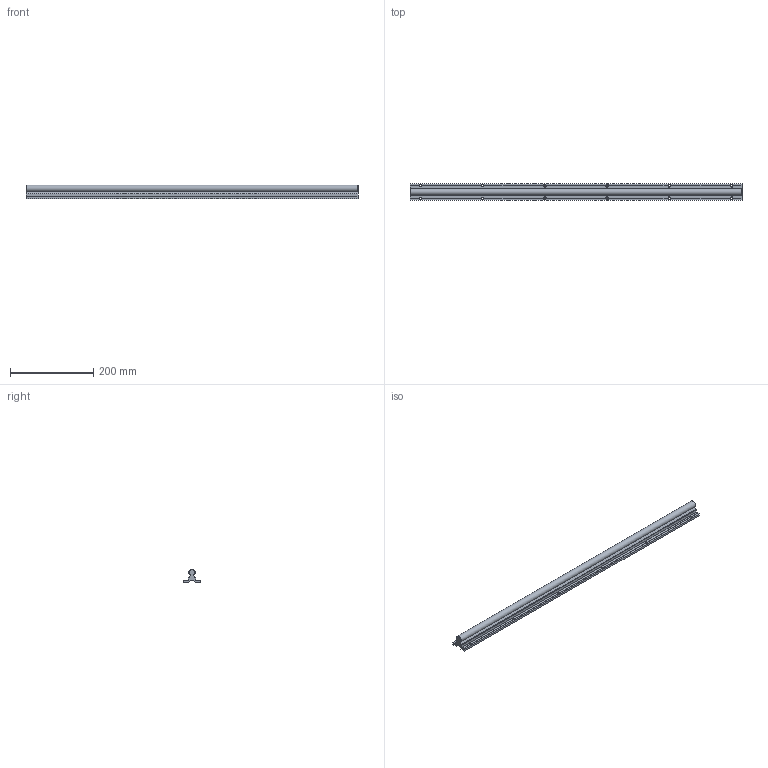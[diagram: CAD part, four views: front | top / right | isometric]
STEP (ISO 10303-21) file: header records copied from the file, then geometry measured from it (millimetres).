
FILE_DESCRIPTION(/* description */ (''),/* implementation_level */ '2;1');
FILE_NAME(/* name */ 'C:\Users\David\Desktop\stepFiles\Profilfuehrung\LFS16x800.stp',/* time_stamp */ '2018-06-24T15:18:14+02:00',/* author */ ('Buskamp'),/* organization */ (''),/* preprocessor_version */ 'ST-DEVELOPER v17',/* originating_system */ 'Autodesk Inventor 2019',/* authorisation */ '');
FILE_SCHEMA (('AUTOMOTIVE_DESIGN { 1 0 10303 214 3 1 1 }'));
Length unit declared in the file: millimetre
Products named in the file (1): Linearführung D16xvariabel
Bounding box: 800 x 40 x 32.97 mm (x, y, z)
Volume: 408373.3 mm3; surface area: 126074.2 mm2
Topology: 1 solids, 1 shells, 92 faces, 286 edges, 184 vertices
Faces by surface type: plane 61, cone 18, cylinder 13
Full cylindrical faces by diameter (mm): 5.5 x12
Entity records: 3245 total; most frequent: CARTESIAN_POINT 635, ORIENTED_EDGE 572, DIRECTION 540, EDGE_CURVE 286, AXIS2_PLACEMENT_3D 197, VERTEX_POINT 184, LINE 146, VECTOR 146
